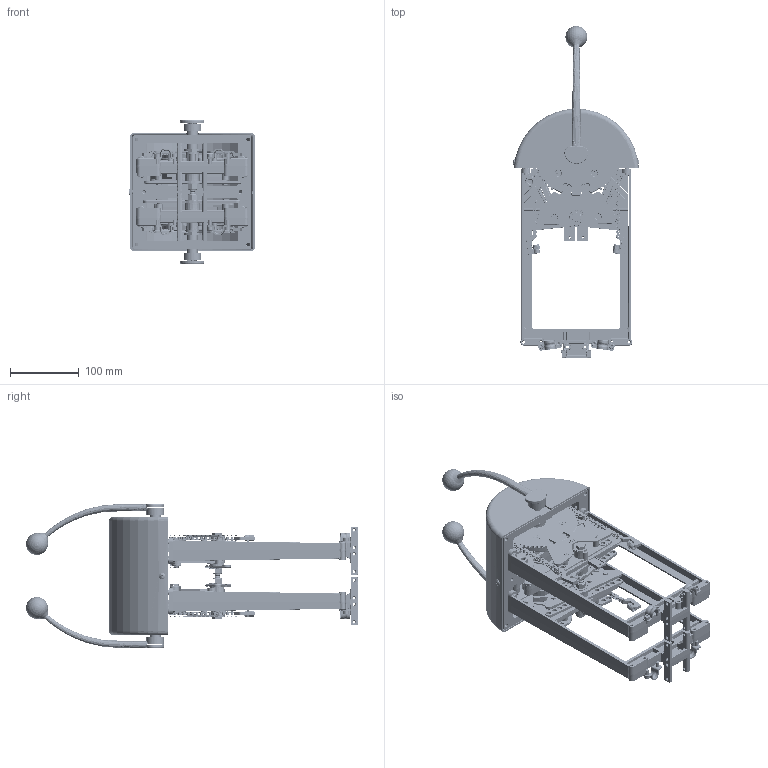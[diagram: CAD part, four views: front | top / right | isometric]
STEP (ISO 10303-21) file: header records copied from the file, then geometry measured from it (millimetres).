
FILE_DESCRIPTION (( 'STEP AP214' ), '1' );
FILE_NAME ('2092-xU.STEP', '2026-06-10T16:17:55', ( '' ), ( '' ), 'SwSTEP 2.0', 'SolidWorks 2023', '' );
FILE_SCHEMA (( 'AUTOMOTIVE_DESIGN' ));
Length unit declared in the file: inch
Products named in the file (1): 2092-xU
Bounding box: 184.19 x 481.51 x 208.28 mm (x, y, z)
Surface area: 531355.4 mm2 (no closed solid volume)
Topology: 0 solids, 569 shells, 4950 faces, 18383 edges, 13598 vertices
Faces by surface type: cylinder 1643, plane 1259, torus 926, cone 818, bspline 286, sphere 18
Entity records: 276711 total; most frequent: CARTESIAN_POINT 61735, DIRECTION 33878, ORIENTED_EDGE 26113, EDGE_CURVE 18329, AXIS2_PLACEMENT_3D 13759, VERTEX_POINT 13592, CIRCLE 9094, LINE 6360
